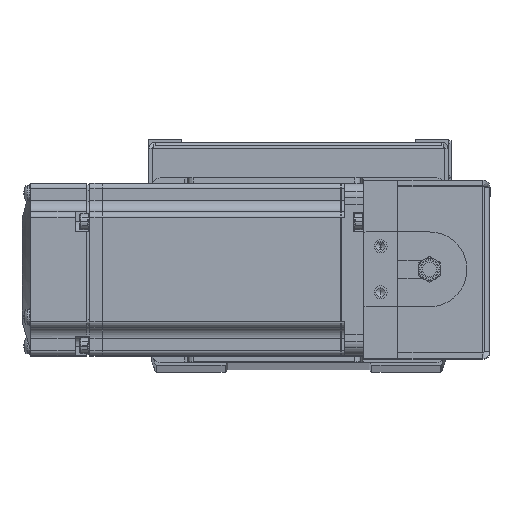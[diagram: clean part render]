
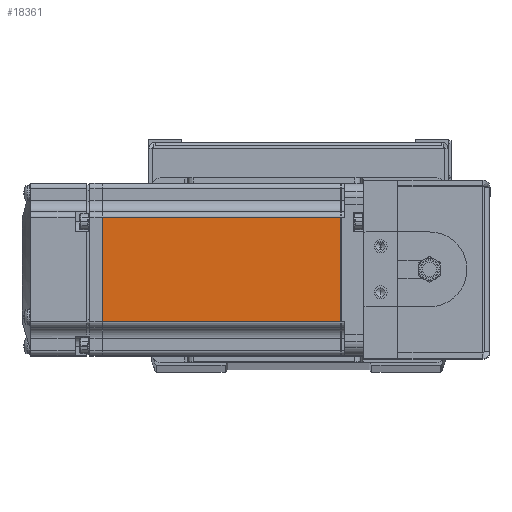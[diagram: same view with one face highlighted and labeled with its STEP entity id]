
A CAD part, top view. The second image highlights one B-rep face of the part: STEP entity #18361.
In plain terms, the highlighted planar face has unit normal (0, 0, 1) as drawn and (0, -1, 0) by its records, which use the part's own axes.
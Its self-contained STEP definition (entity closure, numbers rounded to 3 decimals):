
#984 = EDGE_CURVE ( 'NONE', #45580, #11321, #2251, .T. ) ;
#998 = FACE_OUTER_BOUND ( 'NONE', #17389, .T. ) ;
#1307 = LINE ( 'NONE', #29913, #30692 ) ;
#1524 = DIRECTION ( 'NONE',  ( 0., -1., 0. ) ) ;
#2251 = LINE ( 'NONE', #14076, #5564 ) ;
#5564 = VECTOR ( 'NONE', #10410, 1000. ) ;
#7639 = EDGE_CURVE ( 'NONE', #24647, #11321, #38161, .T. ) ;
#9593 = ORIENTED_EDGE ( 'NONE', *, *, #10717, .T. ) ;
#10410 = DIRECTION ( 'NONE',  ( -1., 0., 0. ) ) ;
#10700 = DIRECTION ( 'NONE',  ( 0., 0., -1. ) ) ;
#10717 = EDGE_CURVE ( 'NONE', #50593, #24647, #1307, .T. ) ;
#11321 = VERTEX_POINT ( 'NONE', #43754 ) ;
#14076 = CARTESIAN_POINT ( 'NONE',  ( -6.5, -30., -18. ) ) ;
#14234 = ORIENTED_EDGE ( 'NONE', *, *, #7639, .T. ) ;
#17389 = EDGE_LOOP ( 'NONE', ( #36227, #9593, #14234, #38605 ) ) ;
#17551 = DIRECTION ( 'NONE',  ( 0., 0., -1. ) ) ;
#18361 = ADVANCED_FACE ( 'NONE', ( #998 ), #45607, .T. ) ;
#20371 = CARTESIAN_POINT ( 'NONE',  ( -90.45, -30., 18. ) ) ;
#21355 = CARTESIAN_POINT ( 'NONE',  ( -90.45, -30., 0. ) ) ;
#21759 = DIRECTION ( 'NONE',  ( -1., 0., 0. ) ) ;
#24569 = EDGE_CURVE ( 'NONE', #50593, #45580, #38521, .T. ) ;
#24647 = VERTEX_POINT ( 'NONE', #20371 ) ;
#26828 = CARTESIAN_POINT ( 'NONE',  ( -7.75, -30., 18. ) ) ;
#28829 = CARTESIAN_POINT ( 'NONE',  ( -6.5, -30., -25. ) ) ;
#29792 = AXIS2_PLACEMENT_3D ( 'NONE', #28829, #1524, #17551 ) ;
#29913 = CARTESIAN_POINT ( 'NONE',  ( -6.5, -30., 18. ) ) ;
#30692 = VECTOR ( 'NONE', #21759, 1000. ) ;
#36227 = ORIENTED_EDGE ( 'NONE', *, *, #24569, .F. ) ;
#37899 = DIRECTION ( 'NONE',  ( 0., 0., -1. ) ) ;
#38161 = LINE ( 'NONE', #21355, #38388 ) ;
#38388 = VECTOR ( 'NONE', #37899, 1000. ) ;
#38521 = LINE ( 'NONE', #46624, #47835 ) ;
#38605 = ORIENTED_EDGE ( 'NONE', *, *, #984, .F. ) ;
#43754 = CARTESIAN_POINT ( 'NONE',  ( -90.45, -30., -18. ) ) ;
#44645 = CARTESIAN_POINT ( 'NONE',  ( -7.75, -30., -18. ) ) ;
#45580 = VERTEX_POINT ( 'NONE', #44645 ) ;
#45607 = PLANE ( 'NONE',  #29792 ) ;
#46624 = CARTESIAN_POINT ( 'NONE',  ( -7.75, -30., 0. ) ) ;
#47835 = VECTOR ( 'NONE', #10700, 1000. ) ;
#50593 = VERTEX_POINT ( 'NONE', #26828 ) ;
